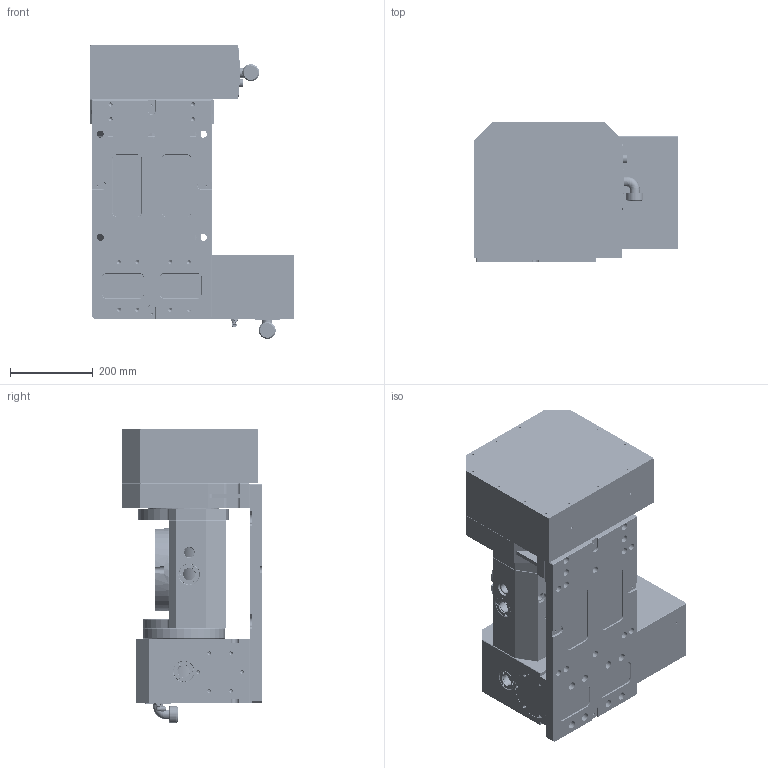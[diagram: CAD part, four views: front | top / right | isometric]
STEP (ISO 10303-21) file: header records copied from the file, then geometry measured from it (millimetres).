
FILE_DESCRIPTION (( 'STEP AP203' ), '1' );
FILE_NAME ('RT200 軞蚾饜芞 REV.01.STEP', '2022-09-03T08:27:08', ( '' ), ( '' ), 'SwSTEP 2.0', 'SolidWorks 2021', '' );
FILE_SCHEMA (( 'CONFIG_CONTROL_DESIGN' ));
Products named in the file (1): RT200 軞蚾饜芞 REV.01
Bounding box: 495 x 340 x 712.5 mm (x, y, z)
Volume: 31300191.1 mm3; surface area: 3166095.4 mm2
Topology: 22 solids, 88 shells, 3753 faces, 8753 edges, 5172 vertices
Faces by surface type: cylinder 1696, plane 973, cone 941, torus 129, bspline 9, sphere 5
Entity records: 107790 total; most frequent: CARTESIAN_POINT 20978, DIRECTION 19579, ORIENTED_EDGE 16678, EDGE_CURVE 8339, AXIS2_PLACEMENT_3D 7780, VERTEX_POINT 5172, EDGE_LOOP 4593, CIRCLE 4035
